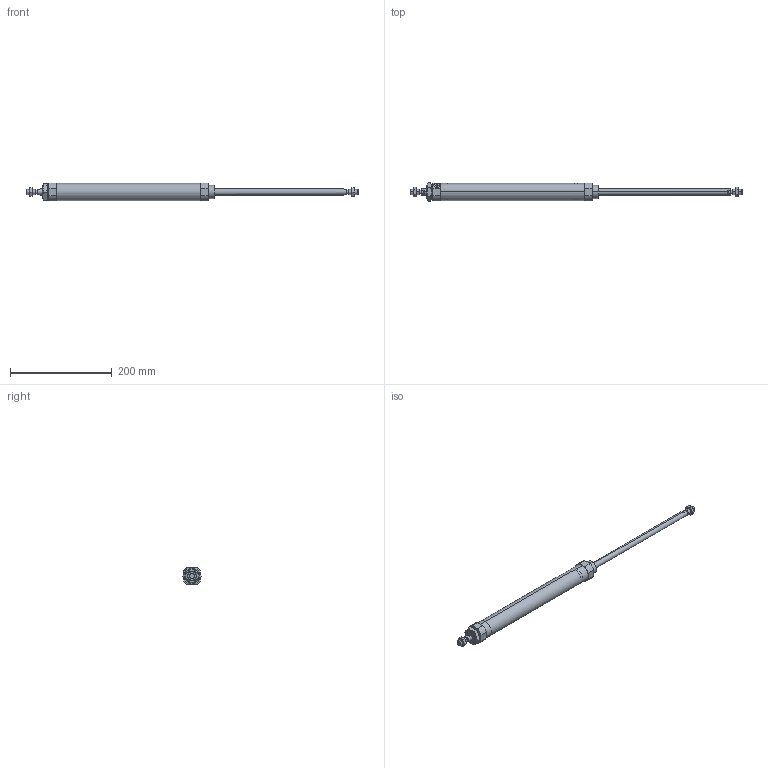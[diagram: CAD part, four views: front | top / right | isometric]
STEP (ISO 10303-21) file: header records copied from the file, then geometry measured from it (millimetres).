
FILE_DESCRIPTION (( 'STEP AP203' ), '1' );
FILE_NAME ('CSM2B32-250-P.STEP', '2020-07-20T16:48:02', ( '' ), ( '' ), 'SwSTEP 2.0', 'SolidWorks 2019', '' );
FILE_SCHEMA (( 'CONFIG_CONTROL_DESIGN' ));
Length unit declared in the file: millimetre
Products named in the file (1): CSM2B32-250-P
Bounding box: 654 x 36.95 x 34.5 mm (x, y, z)
Volume: 165143.2 mm3; surface area: 98730 mm2
Topology: 5 solids, 5 shells, 149 faces, 346 edges, 217 vertices
Faces by surface type: plane 57, cylinder 48, cone 44
Entity records: 5397 total; most frequent: CARTESIAN_POINT 1949, DIRECTION 714, ORIENTED_EDGE 680, EDGE_CURVE 340, AXIS2_PLACEMENT_3D 282, VERTEX_POINT 217, EDGE_LOOP 173, VECTOR 150
